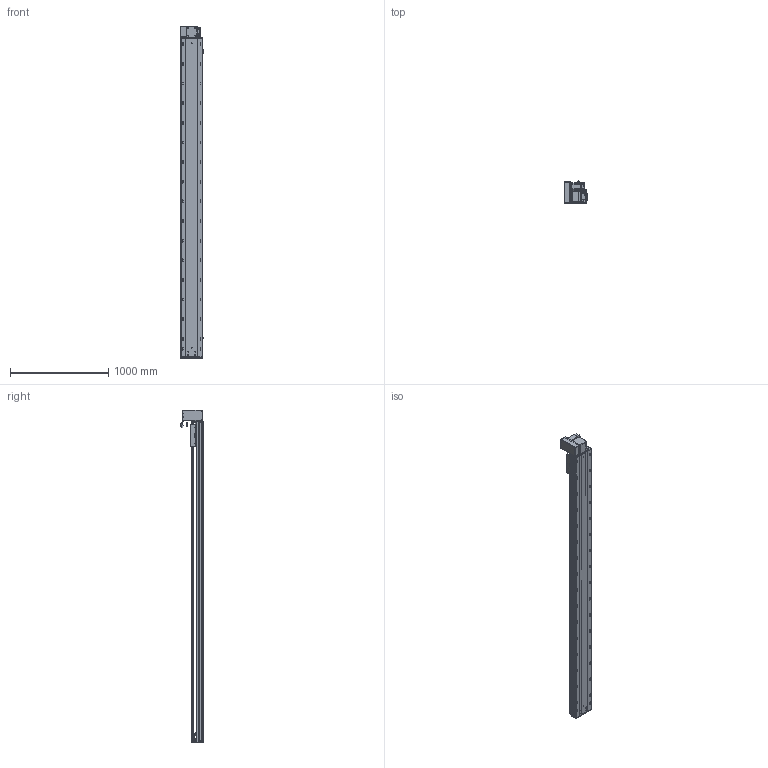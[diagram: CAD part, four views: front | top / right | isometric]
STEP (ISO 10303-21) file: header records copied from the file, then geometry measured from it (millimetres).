
FILE_DESCRIPTION (( 'STEP AP203' ), '1' );
FILE_NAME ('RY220-T-300-UL.SLDASM_2900.step', '2022-07-25T08:36:14', ( '' ), ( '' ), 'SwSTEP 2.0', 'SolidWorks 2016', '' );
FILE_SCHEMA (( 'CONFIG_CONTROL_DESIGN' ));
Length unit declared in the file: millimetre
Products named in the file (14): RY220-T-300-奻裔啣_2900; RY220翋肮祭謫裔啣; RY220-T-300-UL.SLDASM_2900; 滅袉蝶18-15; 110A-T-肮祭謫釱傷裔; RY220-俋离672覜茼んえ; RY220圉猾敕々湍臏賑輸; 怢湛750W_ECMA-CX0807ES; RY220翋肮祭謫釱; 覜茼ん672; RY220-同步轮副支撑座6304×2; RY220-T菁釱-300_2900; RY220-T-湍謫欶(鍼踢); RY220-T-蛌殏萇儂假蚾啣(750W)
Assembly tree (18 placements, depth 2):
  RY220-T-300-UL.SLDASM_2900
    RY220-T菁釱-300_2900
    RY220翋肮祭謫釱
    覜茼ん672  x3
    RY220圉猾敕々湍臏賑輸
    RY220-T-300-奻裔啣_2900
    RY220-俋离672覜茼んえ
    滅袉蝶18-15  x3
    RY220翋肮祭謫裔啣  x2
    110A-T-肮祭謫釱傷裔
    怢湛750W_ECMA-CX0807ES
    RY220-T-湍謫欶(鍼踢)
    RY220-T-蛌殏萇儂假蚾啣(750W)
    RY220-同步轮副支撑座6304×2
Bounding box: 239.7 x 231.74 x 3380.5 mm (x, y, z)
Volume: 24554763 mm3; surface area: 7588382.2 mm2
Topology: 19 solids, 19 shells, 3012 faces, 8335 edges, 5220 vertices
Faces by surface type: cylinder 1488, plane 1069, cone 373, bspline 56, sphere 16, torus 10
Entity records: 100515 total; most frequent: CARTESIAN_POINT 28367, ORIENTED_EDGE 14906, DIRECTION 14396, EDGE_CURVE 7453, AXIS2_PLACEMENT_3D 5198, VERTEX_POINT 4844, VECTOR 4000, LINE 4000
